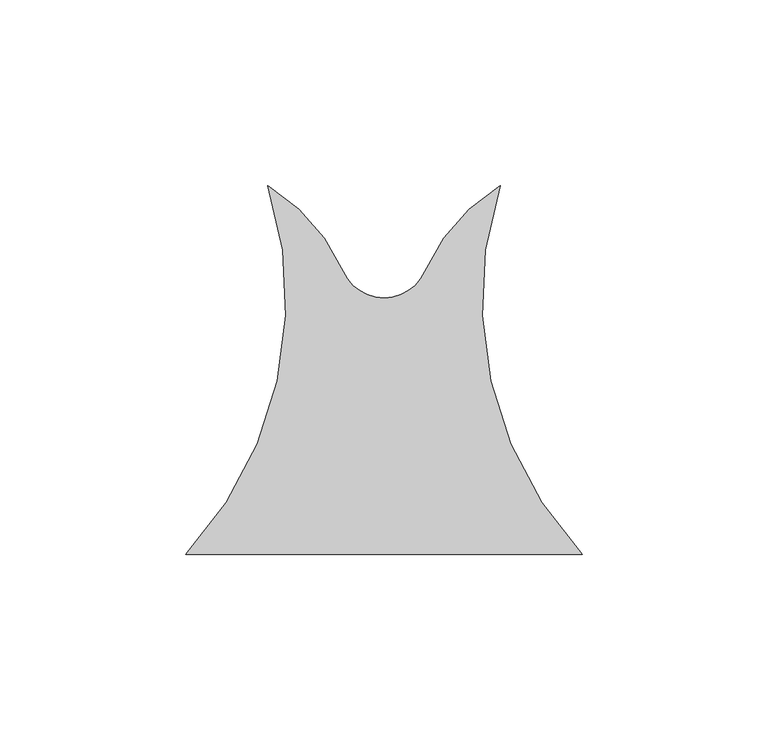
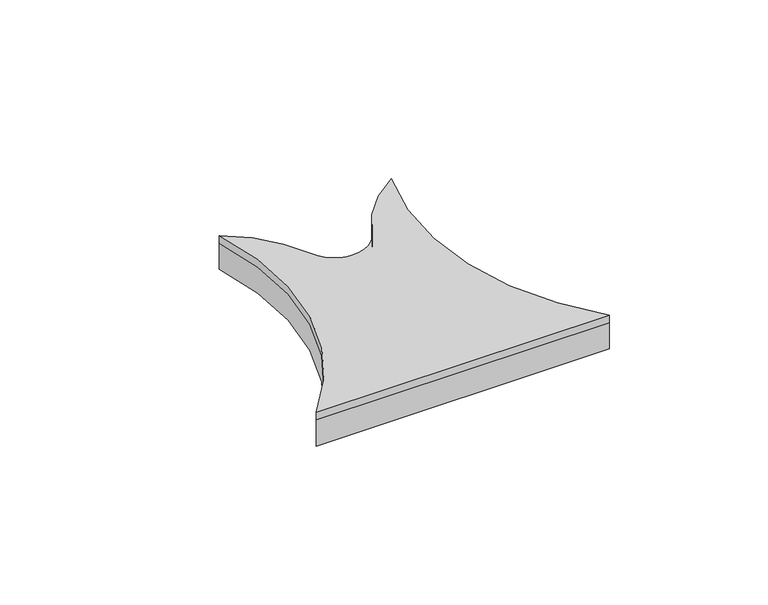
"""IFC4 building model written with IfcOpenShell, lengths in millimetres: proxy geometry, FilzFelt_Fish_Block : Fish Block."""

import ifcopenshell
import ifcopenshell.guid

model = None  # the IFC model being written
_history = None  # IfcOwnerHistory: only IFC2X3 demands one
_inside = {}  # id of a spatial element -> (the spatial element, [elements in it])
_under = {}  # id of a project, library or spatial element -> (it, [spatial elements below it])
_declared = {}  # id of a project -> (the project, [libraries it declares])
_typed = {}  # id of a type object -> (the type object, [elements of that type])
_made_of = {}  # id of a material, layer set ... -> (it, [elements and type objects made of it])


def new_model(schema):
    """Start an empty IFC model of exactly this schema.

    Asked for "IFC4X3", IfcOpenShell would pick the latest addendum, in which some entities
    have other attributes; the version numbers below select the first issue.
    IFC2X3 requires an IfcOwnerHistory on every rooted entity: one is made here for all.
    """
    global model, _history
    if schema == "IFC4X3":
        model = ifcopenshell.file(schema_version=(4, 3, 0, 0))
    else:
        model = ifcopenshell.file(schema=schema)
    _inside.clear()
    _under.clear()
    _declared.clear()
    _typed.clear()
    _made_of.clear()
    _history = None
    if model.schema == "IFC2X3":
        org = make("IfcOrganization", Name="unknown")
        user = make(
            "IfcPersonAndOrganization",
            ThePerson=make("IfcPerson", FamilyName="unknown"),
            TheOrganization=org,
        )
        app = make(
            "IfcApplication",
            ApplicationDeveloper=org,
            Version="unknown",
            ApplicationFullName="unknown",
            ApplicationIdentifier="unknown",
        )
        _history = make(
            "IfcOwnerHistory",
            OwningUser=user,
            OwningApplication=app,
            ChangeAction="ADDED",
            CreationDate=0,
        )
    return model


def make(cls, **values):
    """One entity of the class cls with the attributes given. An attribute that is None is left unset."""
    return model.create_entity(
        cls, **{name: value for name, value in values.items() if value is not None}
    )


def rooted(cls, **values):
    """An entity with a GlobalId (a new one), such as an element, a storey or a relation."""
    return make(cls, GlobalId=ifcopenshell.guid.new(), OwnerHistory=_history, **values)


def si_unit(unit_type, name, prefix=None):
    """IfcSIUnit, for example si_unit("LENGTHUNIT", "METRE", prefix="MILLI")."""
    return make("IfcSIUnit", UnitType=unit_type, Prefix=prefix, Name=name)


def assignment(units):
    """IfcUnitAssignment: the units of a project."""
    return None if units is None else make("IfcUnitAssignment", Units=units)


def point(xyz):
    """IfcCartesianPoint."""
    return None if xyz is None else make("IfcCartesianPoint", Coordinates=xyz)


def direction(xyz):
    """IfcDirection."""
    return None if xyz is None else make("IfcDirection", DirectionRatios=xyz)


def frame(location, z_axis=None, x_axis=None):
    """IfcAxis2Placement3D, a coordinate frame: its origin and axes. An axis left out is left unset."""
    return make(
        "IfcAxis2Placement3D",
        Location=point(location),
        Axis=direction(z_axis),
        RefDirection=direction(x_axis),
    )


def frame_2d(location, x_axis=None):
    """IfcAxis2Placement2D, a coordinate frame in the plane: its origin and x axis."""
    return make(
        "IfcAxis2Placement2D", Location=point(location), RefDirection=direction(x_axis)
    )


def origin():
    """The frame at (0, 0, 0) with its axes left unset."""
    return frame((0.0, 0.0, 0.0))


def origin_with_axes():
    """The frame at (0, 0, 0) with the z axis (0, 0, 1) and the x axis (1, 0, 0) written out."""
    return frame((0.0, 0.0, 0.0), z_axis=(0.0, 0.0, 1.0), x_axis=(1.0, 0.0, 0.0))


def place(relative_to, where):
    """IfcLocalPlacement: puts the frame where relative to a parent placement (None: the world)."""
    return make(
        "IfcLocalPlacement", PlacementRelTo=relative_to, RelativePlacement=where
    )


def context(
    kind, dimensions, precision=None, world=None, true_north=None, identifier=None
):
    """IfcGeometricRepresentationContext, for example the 3D "Model" context."""
    return make(
        "IfcGeometricRepresentationContext",
        ContextIdentifier=identifier,
        ContextType=kind,
        CoordinateSpaceDimension=dimensions,
        Precision=precision,
        WorldCoordinateSystem=world,
        TrueNorth=true_north,
    )


def project(units=None, contexts=None):
    """IfcProject with its units and contexts."""
    return rooted(
        "IfcProject",
        Name="project",
        RepresentationContexts=contexts,
        UnitsInContext=assignment(units),
    )


def spatial(cls, under=None, at=None, **own):
    """A site, building, storey or space (cls), placed at a placement, below another one or the project."""
    s = rooted(cls, ObjectPlacement=at, **own)
    if under is not None:
        _under.setdefault(under.id(), (under, []))[1].append(s)
    return s


def polyline(points):
    """IfcPolyline through the points."""
    return make("IfcPolyline", Points=[point(p) for p in points])


def circle_curve(where, radius):
    """IfcCircle in the frame where."""
    return make("IfcCircle", Position=where, Radius=radius)


def trimmed(basis, trim1, trim2, sense, master):
    """IfcTrimmedCurve: the piece of a basis curve between two trims."""
    return make(
        "IfcTrimmedCurve",
        BasisCurve=basis,
        Trim1=trim1,
        Trim2=trim2,
        SenseAgreement=sense,
        MasterRepresentation=master,
    )


def segment(curve, same_sense, transition):
    """IfcCompositeCurveSegment."""
    return make(
        "IfcCompositeCurveSegment",
        Transition=transition,
        SameSense=same_sense,
        ParentCurve=curve,
    )


def composite_curve(segments, self_intersect=None):
    """IfcCompositeCurve: segments joined end to end."""
    return make("IfcCompositeCurve", Segments=segments, SelfIntersect=self_intersect)


def outline(outer, holes=None, kind="AREA"):
    """IfcArbitraryClosedProfileDef: a profile drawn as a closed curve; with holes, ...WithVoids."""
    if holes is None:
        return make("IfcArbitraryClosedProfileDef", ProfileType=kind, OuterCurve=outer)
    return make(
        "IfcArbitraryProfileDefWithVoids",
        ProfileType=kind,
        OuterCurve=outer,
        InnerCurves=holes,
    )


def extrude(swept, where, along, depth):
    """IfcExtrudedAreaSolid: the profile swept, set in the frame where, extruded along a direction by depth."""
    return make(
        "IfcExtrudedAreaSolid",
        SweptArea=swept,
        Position=where,
        ExtrudedDirection=direction(along),
        Depth=depth,
    )


def shape(context_of_items, identifier, shape_type, items):
    """IfcShapeRepresentation: the items that make up one representation, for example the "Body"."""
    return make(
        "IfcShapeRepresentation",
        ContextOfItems=context_of_items,
        RepresentationIdentifier=identifier,
        RepresentationType=shape_type,
        Items=items,
    )


def source(mapping_origin, context_of_items, identifier, shape_type, items):
    """IfcRepresentationMap: a shape defined once, which mapped items show again and again."""
    return make(
        "IfcRepresentationMap",
        MappingOrigin=mapping_origin,
        MappedRepresentation=shape(context_of_items, identifier, shape_type, items),
    )


def transform(
    local_origin,
    x_axis=None,
    y_axis=None,
    z_axis=None,
    scale=None,
    scale2=None,
    scale3=None,
    uniform=True,
):
    """IfcCartesianTransformationOperator3D, or its non-uniform kind. x_axis, y_axis, z_axis: its Axis1, 2, 3."""
    if uniform:
        return make(
            "IfcCartesianTransformationOperator3D",
            Axis1=direction(x_axis),
            Axis2=direction(y_axis),
            LocalOrigin=point(local_origin),
            Scale=scale,
            Axis3=direction(z_axis),
        )
    return make(
        "IfcCartesianTransformationOperator3DnonUniform",
        Axis1=direction(x_axis),
        Axis2=direction(y_axis),
        LocalOrigin=point(local_origin),
        Scale=scale,
        Axis3=direction(z_axis),
        Scale2=scale2,
        Scale3=scale3,
    )


def mapped(mapping_source, mapping_target):
    """IfcMappedItem: shows the shape of a source again, moved by a transform."""
    return make(
        "IfcMappedItem", MappingSource=mapping_source, MappingTarget=mapping_target
    )


def made_of(thing, what):
    """Note that an element or type object is made of a material, layer set ...; save() writes the relation."""
    if what is not None:
        _made_of.setdefault(what.id(), (what, []))[1].append(thing)
    return thing


def element(
    cls,
    number,
    at=None,
    inside=None,
    cuts=None,
    type_object=None,
    material=None,
    context=None,
    identifier="Body",
    shape_type=None,
    held_by="IfcProductDefinitionShape",
    body=None,
    shapes=None,
    **own,
):
    """One element of the class cls, such as IfcWall. Its Tag is "e" and its number.

    at: its placement. inside: the storey or other place that contains it. cuts: it is an
    opening in that element (IfcRelVoidsElement). A single representation is given by context,
    identifier, shape_type and body (its items); several are given by shapes. held_by: the class
    of the entity that holds the representations. save() writes the other relations.
    """
    e = rooted(cls, Tag="e%d" % number, ObjectPlacement=at, **own)
    if body is not None:
        shapes = [shape(context, identifier, shape_type, body)]
    if shapes is not None:
        e.Representation = make(held_by, Representations=shapes)
    if inside is not None:
        _inside.setdefault(inside.id(), (inside, []))[1].append(e)
    if cuts is not None:
        rooted(
            "IfcRelVoidsElement", RelatingBuildingElement=cuts, RelatedOpeningElement=e
        )
    if type_object is not None:
        _typed.setdefault(type_object.id(), (type_object, []))[1].append(e)
    return made_of(e, material)


def aggregate(whole, parts):
    """IfcRelAggregates: a whole, such as a stair, and the parts it consists of."""
    return rooted("IfcRelAggregates", RelatingObject=whole, RelatedObjects=parts)


def save(model, path):
    """Write the relations noted so far, then the file.

    IfcRelAggregates (storeys below a building ...), IfcRelContainedInSpatialStructure (elements
    in a storey), IfcRelDefinesByType, IfcRelAssociatesMaterial and IfcRelDeclares: one each for
    every whole, place, type object, material and project.
    """
    for whole, parts in _under.values():
        aggregate(whole, parts)
    for where, things in _inside.values():
        rooted(
            "IfcRelContainedInSpatialStructure",
            RelatedElements=things,
            RelatingStructure=where,
        )
    for kind, things in _typed.values():
        rooted("IfcRelDefinesByType", RelatedObjects=things, RelatingType=kind)
    for what, things in _made_of.values():
        rooted("IfcRelAssociatesMaterial", RelatedObjects=things, RelatingMaterial=what)
    for by, libraries in _declared.values():
        rooted("IfcRelDeclares", RelatingContext=by, RelatedDefinitions=libraries)
    model.write(path)


def specialty_equipment_ef051c02(model_context):
    return source(origin(), model_context, "Body", "SweptSolid", [
        extrude(outline(composite_curve([segment(trimmed(circle_curve(frame_2d((126.6124317, 137.2240266)), 100.2293629), [point((31.2619065, 168.1141956))], [point((53.3600205, 68.813432))], True, "CARTESIAN"), True, "CONTINUOUS"), segment(polyline([(53.3600205, 68.813432), (-53.3600205, 68.813432)]), True, "CONTINUOUS"), segment(trimmed(circle_curve(frame_2d((-126.6124317, 137.2240266)), 100.2293629), [point((-53.3600205, 68.813432))], [point((-31.2619065, 168.1141956))], True, "CARTESIAN"), True, "CONTINUOUS"), segment(trimmed(circle_curve(frame_2d((-57.9263497, 124.2921115)), 51.2968574), [point((-31.2619065, 168.1141956))], [point((-11.0103348, 145.0347036))], False, "CARTESIAN"), True, "CONTINUOUS"), segment(trimmed(circle_curve(frame_2d((0.0, 149.9026124)), 12.0384388), [point((-11.0103348, 145.0347036))], [point((11.0103348, 145.0347036))], True, "CARTESIAN"), True, "CONTINUOUS"), segment(trimmed(circle_curve(frame_2d((57.9263497, 124.2921115)), 51.2968574), [point((11.0103348, 145.0347036))], [point((31.2619065, 168.1141956))], False, "CARTESIAN"), True, "CONTINUOUS")], self_intersect=False)), frame((0.0, 0.0, 10.0210937), z_axis=(0.0, 0.0, 1.0), x_axis=(1.0, 0.0, 0.0)), (0.0, 0.0, 1.0), 2.9765625),
        extrude(outline(composite_curve([segment(trimmed(circle_curve(frame_2d((126.6124317, 137.2240266)), 100.2293629), [point((31.2619065, 168.1141956))], [point((53.3600205, 68.813432))], True, "CARTESIAN"), True, "CONTINUOUS"), segment(polyline([(53.3600205, 68.813432), (-53.3600205, 68.813432)]), True, "CONTINUOUS"), segment(trimmed(circle_curve(frame_2d((-126.6124317, 137.2240266)), 100.2293629), [point((-53.3600205, 68.813432))], [point((-31.2619065, 168.1141956))], True, "CARTESIAN"), True, "CONTINUOUS"), segment(trimmed(circle_curve(frame_2d((-57.9263497, 124.2921115)), 51.2968574), [point((-31.2619065, 168.1141956))], [point((-11.0103348, 145.0347036))], False, "CARTESIAN"), True, "CONTINUOUS"), segment(trimmed(circle_curve(frame_2d((0.0, 149.9026124)), 12.0384388), [point((-11.0103348, 145.0347036))], [point((11.0103348, 145.0347036))], True, "CARTESIAN"), True, "CONTINUOUS"), segment(trimmed(circle_curve(frame_2d((57.9263497, 124.2921115)), 51.2968574), [point((11.0103348, 145.0347036))], [point((31.2619065, 168.1141956))], False, "CARTESIAN"), True, "CONTINUOUS")], self_intersect=False)), origin_with_axes(), (0.0, 0.0, 1.0), 10.0210938),
    ])


if __name__ == "__main__":
    model = new_model("IFC4")
    model_context = context("Model", 3, world=origin())
    ifc_project = project(units=[si_unit("LENGTHUNIT", "METRE", prefix="MILLI")], contexts=[model_context])
    site = spatial("IfcSite", under=ifc_project)
    building = spatial("IfcBuilding", under=site)
    placement = place(None, origin())
    specialty_equipment_shape = specialty_equipment_ef051c02(model_context)
    element("IfcBuildingElementProxy", 1, Name="FilzFelt_Fish_Block : Fish Block", ObjectType="FilzFelt_Fish_Block : Fish Block", at=placement, inside=building, context=model_context, shape_type="MappedRepresentation", body=[
        mapped(specialty_equipment_shape, transform((0.0, 0.0, 0.0), x_axis=(1.0, 0.0, 0.0), y_axis=(0.0, 1.0, 0.0), z_axis=(0.0, 0.0, 1.0))),
    ])
    save(model, "model.ifc")
